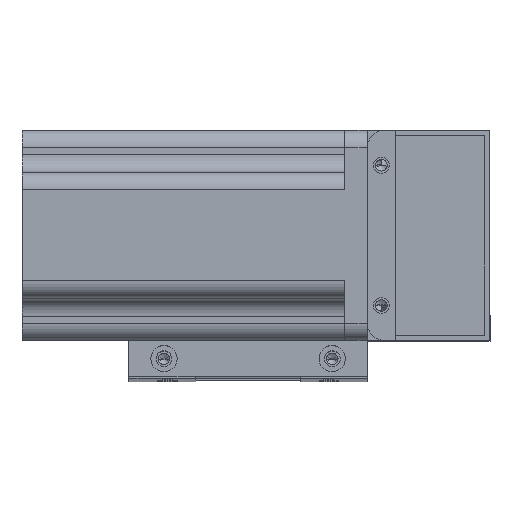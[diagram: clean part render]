
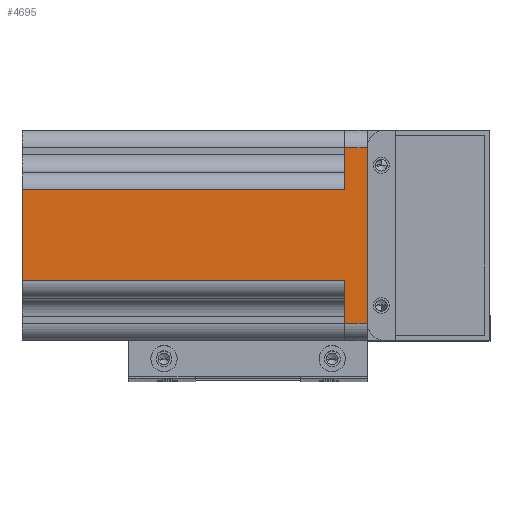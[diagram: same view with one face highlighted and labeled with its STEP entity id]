
A CAD part, top view. The second image highlights one B-rep face of the part: STEP entity #4695.
In plain terms, the highlighted planar face has unit normal (0, 0, 1) as drawn and (0, 1, 0) by its records, which use the part's own axes.
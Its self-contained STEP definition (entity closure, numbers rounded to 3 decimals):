
#2608 = EDGE_CURVE ( 'NONE', #10536, #26163, #15533, .T. ) ;
#3005 = CARTESIAN_POINT ( 'NONE',  ( -18., 30., -92. ) ) ;
#3191 = EDGE_LOOP ( 'NONE', ( #11708, #14632, #14880, #23153, #12309, #15699, #17704, #6795 ) ) ;
#3797 = DIRECTION ( 'NONE',  ( -1., 0., 0. ) ) ;
#4695 = ADVANCED_FACE ( 'NONE', ( #18469 ), #8064, .F. ) ;
#5177 = EDGE_CURVE ( 'NONE', #17023, #27709, #11676, .T. ) ;
#5619 = VECTOR ( 'NONE', #26008, 1000. ) ;
#6425 = LINE ( 'NONE', #11479, #24375 ) ;
#6516 = LINE ( 'NONE', #3005, #11970 ) ;
#6795 = ORIENTED_EDGE ( 'NONE', *, *, #8971, .T. ) ;
#7021 = CARTESIAN_POINT ( 'NONE',  ( 13., 30., 6.5 ) ) ;
#7447 = DIRECTION ( 'NONE',  ( 0., 0., 1. ) ) ;
#7595 = VECTOR ( 'NONE', #11499, 1000. ) ;
#7815 = VERTEX_POINT ( 'NONE', #18175 ) ;
#8064 = PLANE ( 'NONE',  #26262 ) ;
#8685 = CARTESIAN_POINT ( 'NONE',  ( 13., 30., -92. ) ) ;
#8971 = EDGE_CURVE ( 'NONE', #10536, #15200, #6425, .T. ) ;
#9414 = VECTOR ( 'NONE', #3797, 1000. ) ;
#9707 = CARTESIAN_POINT ( 'NONE',  ( -13., 30., 0. ) ) ;
#9765 = VECTOR ( 'NONE', #14836, 1000. ) ;
#10332 = CARTESIAN_POINT ( 'NONE',  ( -25., 30., 0. ) ) ;
#10536 = VERTEX_POINT ( 'NONE', #18171 ) ;
#10778 = CARTESIAN_POINT ( 'NONE',  ( -25., 30., 6.5 ) ) ;
#11479 = CARTESIAN_POINT ( 'NONE',  ( 25., 30., 6.5 ) ) ;
#11499 = DIRECTION ( 'NONE',  ( 0., 0., -1. ) ) ;
#11676 = LINE ( 'NONE', #18161, #24204 ) ;
#11708 = ORIENTED_EDGE ( 'NONE', *, *, #16590, .T. ) ;
#11970 = VECTOR ( 'NONE', #20389, 1000. ) ;
#12309 = ORIENTED_EDGE ( 'NONE', *, *, #15161, .T. ) ;
#12428 = DIRECTION ( 'NONE',  ( 0., 0., -1. ) ) ;
#12555 = EDGE_CURVE ( 'NONE', #22522, #14592, #16408, .T. ) ;
#13712 = EDGE_CURVE ( 'NONE', #17023, #14592, #6516, .T. ) ;
#14509 = CARTESIAN_POINT ( 'NONE',  ( -25., 30., 6.5 ) ) ;
#14592 = VERTEX_POINT ( 'NONE', #8685 ) ;
#14632 = ORIENTED_EDGE ( 'NONE', *, *, #12555, .T. ) ;
#14836 = DIRECTION ( 'NONE',  ( -1., 0., 0. ) ) ;
#14880 = ORIENTED_EDGE ( 'NONE', *, *, #13712, .F. ) ;
#15161 = EDGE_CURVE ( 'NONE', #27709, #7815, #16271, .T. ) ;
#15200 = VERTEX_POINT ( 'NONE', #25922 ) ;
#15533 = LINE ( 'NONE', #10778, #9765 ) ;
#15699 = ORIENTED_EDGE ( 'NONE', *, *, #18906, .F. ) ;
#16271 = LINE ( 'NONE', #21036, #21338 ) ;
#16408 = LINE ( 'NONE', #7021, #7595 ) ;
#16590 = EDGE_CURVE ( 'NONE', #15200, #22522, #21604, .T. ) ;
#17023 = VERTEX_POINT ( 'NONE', #20866 ) ;
#17704 = ORIENTED_EDGE ( 'NONE', *, *, #2608, .F. ) ;
#17830 = LINE ( 'NONE', #21590, #5619 ) ;
#18161 = CARTESIAN_POINT ( 'NONE',  ( -13., 30., 6.5 ) ) ;
#18171 = CARTESIAN_POINT ( 'NONE',  ( 25., 30., 6.5 ) ) ;
#18175 = CARTESIAN_POINT ( 'NONE',  ( -25., 30., 0. ) ) ;
#18469 = FACE_OUTER_BOUND ( 'NONE', #3191, .T. ) ;
#18906 = EDGE_CURVE ( 'NONE', #26163, #7815, #17830, .T. ) ;
#19676 = DIRECTION ( 'NONE',  ( 0., 0., -1. ) ) ;
#20389 = DIRECTION ( 'NONE',  ( 1., 0., 0. ) ) ;
#20866 = CARTESIAN_POINT ( 'NONE',  ( -13., 30., -92. ) ) ;
#21036 = CARTESIAN_POINT ( 'NONE',  ( -25., 30., 0. ) ) ;
#21244 = CARTESIAN_POINT ( 'NONE',  ( -25., 30., 6.5 ) ) ;
#21338 = VECTOR ( 'NONE', #23305, 1000. ) ;
#21590 = CARTESIAN_POINT ( 'NONE',  ( -25., 30., 6.5 ) ) ;
#21604 = LINE ( 'NONE', #10332, #9414 ) ;
#22522 = VERTEX_POINT ( 'NONE', #22893 ) ;
#22893 = CARTESIAN_POINT ( 'NONE',  ( 13., 30., 0. ) ) ;
#23153 = ORIENTED_EDGE ( 'NONE', *, *, #5177, .T. ) ;
#23305 = DIRECTION ( 'NONE',  ( -1., 0., 0. ) ) ;
#24204 = VECTOR ( 'NONE', #7447, 1000. ) ;
#24375 = VECTOR ( 'NONE', #19676, 1000. ) ;
#24979 = DIRECTION ( 'NONE',  ( 0., -1., 0. ) ) ;
#25922 = CARTESIAN_POINT ( 'NONE',  ( 25., 30., 0. ) ) ;
#26008 = DIRECTION ( 'NONE',  ( 0., 0., -1. ) ) ;
#26163 = VERTEX_POINT ( 'NONE', #21244 ) ;
#26262 = AXIS2_PLACEMENT_3D ( 'NONE', #14509, #24979, #12428 ) ;
#27709 = VERTEX_POINT ( 'NONE', #9707 ) ;
